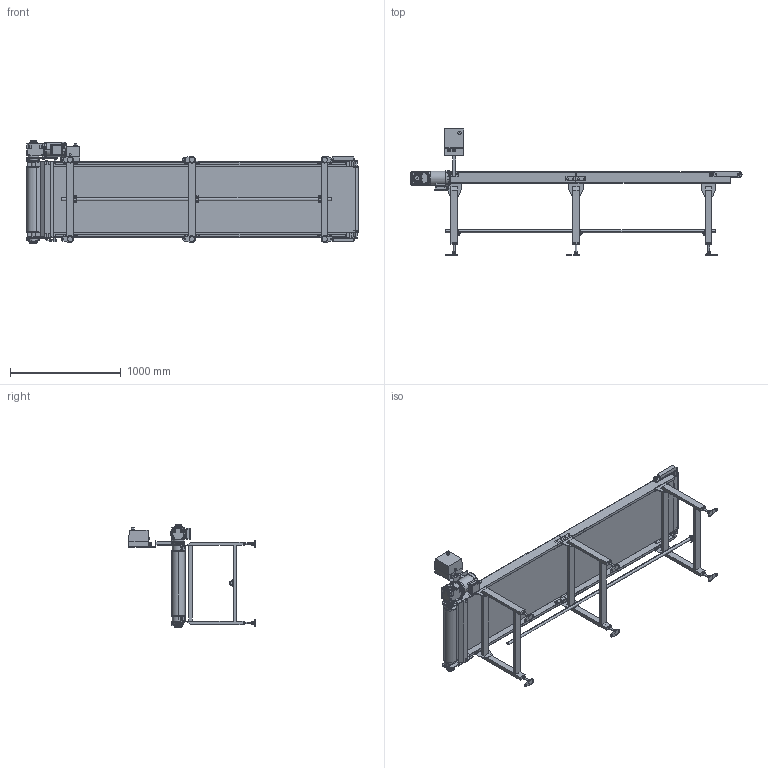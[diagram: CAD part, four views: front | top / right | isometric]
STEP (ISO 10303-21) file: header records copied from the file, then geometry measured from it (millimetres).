
FILE_DESCRIPTION (( 'STEP AP214' ), '1' );
FILE_NAME ('FB3H-340-600-300-L-IVH-30.STEP', '2023-04-20T06:34:08', ( '' ), ( '' ), 'SwSTEP 2.0', 'SolidWorks 2017', '' );
FILE_SCHEMA (( 'AUTOMOTIVE_DESIGN' ));
Length unit declared in the file: millimetre
Products named in the file (1): FB3H-340-600-300-L-IVH-30
Bounding box: 3001.2 x 1141 x 926.7 mm (x, y, z)
Volume: 45403125.2 mm3; surface area: 16395603 mm2
Topology: 71 solids, 73 shells, 2687 faces, 6445 edges, 4140 vertices
Faces by surface type: plane 1654, cylinder 707, cone 241, torus 51, bspline 18, sphere 16
Entity records: 111056 total; most frequent: CARTESIAN_POINT 16917, DIRECTION 13489, ORIENTED_EDGE 12850, EDGE_CURVE 6425, AXIS2_PLACEMENT_3D 4650, VECTOR 4189, LINE 4189, VERTEX_POINT 4140
